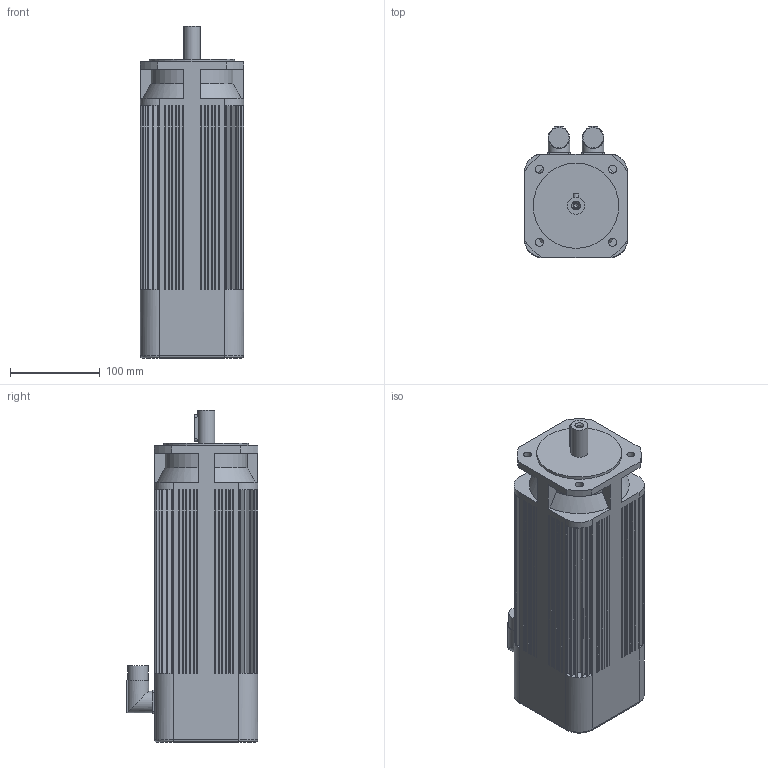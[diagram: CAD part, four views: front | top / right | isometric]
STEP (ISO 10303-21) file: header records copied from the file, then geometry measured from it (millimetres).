
FILE_DESCRIPTION(/* description */ (''),/* implementation_level */ '2;1');
FILE_NAME(/* name */ '\\Lafnas01\disegni\Archivi Lafert\3D\CAD 3D\MODELLI\Assiemi clienti\Serad\Modelli 3D Serad\B63I\Resolver\Res With Brake\B6310Ixx6B052033.ipt.stp',/* time_stamp */ '2015-09-07T10:50:47+02:00',/* author */ ('Pastrello Ylenia'),/* organization */ (''),/* preprocessor_version */ 'ST-DEVELOPER v15.6',/* originating_system */ 'Autodesk Inventor 2015',/* authorisation */ '');
FILE_SCHEMA (('AUTOMOTIVE_DESIGN { 1 0 10303 214 3 1 1 }'));
Length unit declared in the file: millimetre
Products named in the file (1): B6310Ixx6B052033
Bounding box: 115 x 146.5 x 369.5 mm (x, y, z)
Volume: 4055592.7 mm3; surface area: 235333.1 mm2
Topology: 1 solids, 1 shells, 451 faces, 1104 edges, 712 vertices
Faces by surface type: plane 352, cylinder 88, cone 7, torus 4
Full cylindrical faces by diameter (mm): 4.917 x1, 6.4 x1, 9 x4, 19 x1, 22.7 x2, 24 x2, 95 x1
Entity records: 13128 total; most frequent: CARTESIAN_POINT 2294, DIRECTION 2278, ORIENTED_EDGE 2168, EDGE_CURVE 1084, LINE 774, VECTOR 774, AXIS2_PLACEMENT_3D 752, VERTEX_POINT 708
